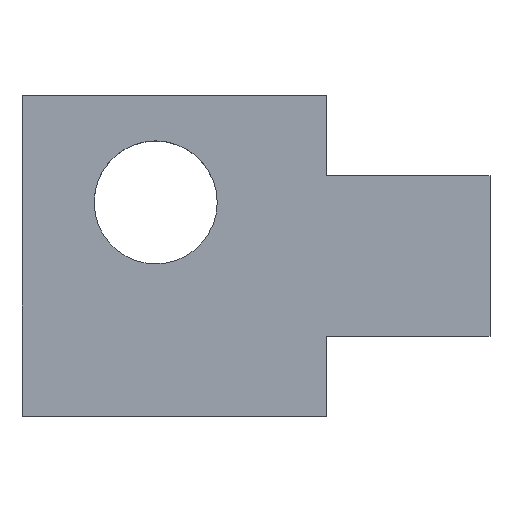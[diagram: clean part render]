
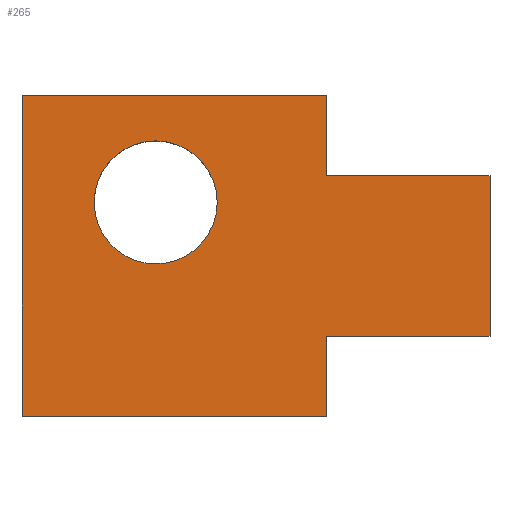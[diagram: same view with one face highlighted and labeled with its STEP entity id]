
A CAD part, top view. The second image highlights one B-rep face of the part: STEP entity #265.
In plain terms, the highlighted planar face has unit normal (0, 0, 1).
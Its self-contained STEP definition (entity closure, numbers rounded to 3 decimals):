
#24 = VERTEX_POINT('',#25);
#25 = CARTESIAN_POINT('',(19.,39.,16.));
#40 = VERTEX_POINT('',#41);
#41 = CARTESIAN_POINT('',(19.,45.,16.));
#47 = EDGE_CURVE('',#24,#40,#48,.T.);
#48 = LINE('',#49,#50);
#49 = CARTESIAN_POINT('',(19.,39.,16.));
#50 = VECTOR('',#51,1.);
#51 = DIRECTION('',(-0.,1.,0.));
#70 = EDGE_CURVE('',#24,#71,#73,.T.);
#71 = VERTEX_POINT('',#72);
#72 = CARTESIAN_POINT('',(24.7,39.,16.));
#73 = LINE('',#74,#75);
#74 = CARTESIAN_POINT('',(19.,39.,16.));
#75 = VECTOR('',#76,1.);
#76 = DIRECTION('',(1.,0.,-0.));
#101 = EDGE_CURVE('',#40,#102,#104,.T.);
#102 = VERTEX_POINT('',#103);
#103 = CARTESIAN_POINT('',(24.7,45.,16.));
#104 = LINE('',#105,#106);
#105 = CARTESIAN_POINT('',(19.,45.,16.));
#106 = VECTOR('',#107,1.);
#107 = DIRECTION('',(1.,0.,-0.));
#123 = EDGE_CURVE('',#71,#124,#126,.T.);
#124 = VERTEX_POINT('',#125);
#125 = CARTESIAN_POINT('',(24.7,40.5,16.));
#126 = LINE('',#127,#128);
#127 = CARTESIAN_POINT('',(24.7,39.,16.));
#128 = VECTOR('',#129,1.);
#129 = DIRECTION('',(-0.,1.,0.));
#154 = EDGE_CURVE('',#155,#102,#157,.T.);
#155 = VERTEX_POINT('',#156);
#156 = CARTESIAN_POINT('',(24.7,43.5,16.));
#157 = LINE('',#158,#159);
#158 = CARTESIAN_POINT('',(24.7,39.,16.));
#159 = VECTOR('',#160,1.);
#160 = DIRECTION('',(-0.,1.,0.));
#194 = EDGE_CURVE('',#124,#195,#197,.T.);
#195 = VERTEX_POINT('',#196);
#196 = CARTESIAN_POINT('',(27.75,40.5,16.));
#197 = LINE('',#198,#199);
#198 = CARTESIAN_POINT('',(24.7,40.5,16.));
#199 = VECTOR('',#200,1.);
#200 = DIRECTION('',(1.,0.,-0.));
#225 = EDGE_CURVE('',#155,#226,#228,.T.);
#226 = VERTEX_POINT('',#227);
#227 = CARTESIAN_POINT('',(27.75,43.5,16.));
#228 = LINE('',#229,#230);
#229 = CARTESIAN_POINT('',(24.7,43.5,16.));
#230 = VECTOR('',#231,1.);
#231 = DIRECTION('',(1.,0.,-0.));
#255 = EDGE_CURVE('',#195,#226,#256,.T.);
#256 = LINE('',#257,#258);
#257 = CARTESIAN_POINT('',(27.75,40.5,16.));
#258 = VECTOR('',#259,1.);
#259 = DIRECTION('',(-0.,1.,0.));
#265 = ADVANCED_FACE('',(#266,#276),#287,.T.);
#266 = FACE_BOUND('',#267,.T.);
#267 = EDGE_LOOP('',(#268,#269,#270,#271,#272,#273,#274,#275));
#268 = ORIENTED_EDGE('',*,*,#47,.F.);
#269 = ORIENTED_EDGE('',*,*,#70,.T.);
#270 = ORIENTED_EDGE('',*,*,#123,.T.);
#271 = ORIENTED_EDGE('',*,*,#194,.T.);
#272 = ORIENTED_EDGE('',*,*,#255,.T.);
#273 = ORIENTED_EDGE('',*,*,#225,.F.);
#274 = ORIENTED_EDGE('',*,*,#154,.T.);
#275 = ORIENTED_EDGE('',*,*,#101,.F.);
#276 = FACE_BOUND('',#277,.T.);
#277 = EDGE_LOOP('',(#278));
#278 = ORIENTED_EDGE('',*,*,#279,.F.);
#279 = EDGE_CURVE('',#280,#280,#282,.T.);
#280 = VERTEX_POINT('',#281);
#281 = CARTESIAN_POINT('',(22.65,43.,16.));
#282 = CIRCLE('',#283,1.15);
#283 = AXIS2_PLACEMENT_3D('',#284,#285,#286);
#284 = CARTESIAN_POINT('',(21.5,43.,16.));
#285 = DIRECTION('',(0.,0.,1.));
#286 = DIRECTION('',(1.,0.,-0.));
#287 = PLANE('',#288);
#288 = AXIS2_PLACEMENT_3D('',#289,#290,#291);
#289 = CARTESIAN_POINT('',(23.065,42.,16.));
#290 = DIRECTION('',(0.,0.,1.));
#291 = DIRECTION('',(1.,0.,-0.));
